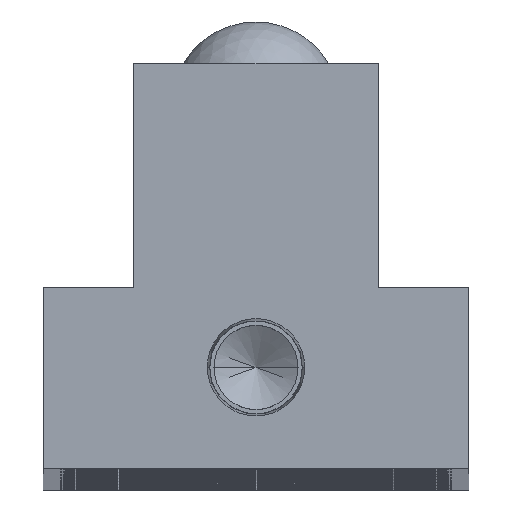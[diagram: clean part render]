
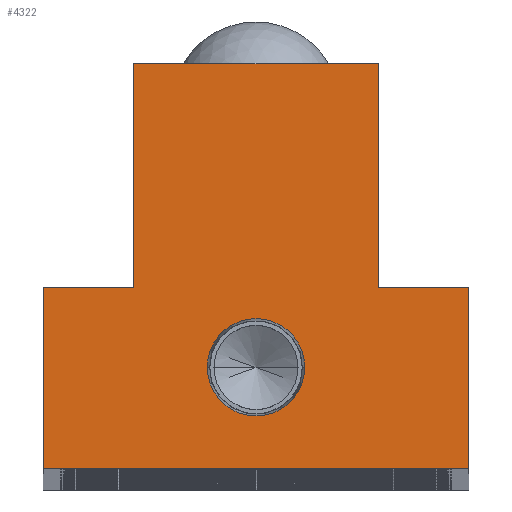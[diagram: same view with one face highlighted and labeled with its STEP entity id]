
A CAD part, top view. The second image highlights one B-rep face of the part: STEP entity #4322.
In plain terms, the highlighted planar face has unit normal (0, 0, 1).
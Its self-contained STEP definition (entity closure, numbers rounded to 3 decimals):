
#208 = CARTESIAN_POINT ( 'NONE',  ( 0., 9.5, 0. ) ) ;
#245 = LINE ( 'NONE', #13261, #23005 ) ;
#371 = FACE_BOUND ( 'NONE', #25600, .T. ) ;
#471 = DIRECTION ( 'NONE',  ( 0., 1., 0. ) ) ;
#559 = EDGE_CURVE ( 'NONE', #4421, #10044, #24688, .T. ) ;
#1039 = EDGE_CURVE ( 'NONE', #1881, #25905, #3249, .T. ) ;
#1077 = VERTEX_POINT ( 'NONE', #6687 ) ;
#1423 = DIRECTION ( 'NONE',  ( -1., 0., 0. ) ) ;
#1881 = VERTEX_POINT ( 'NONE', #10308 ) ;
#2095 = VERTEX_POINT ( 'NONE', #4884 ) ;
#2389 = DIRECTION ( 'NONE',  ( 1., 0., 0. ) ) ;
#2504 = CARTESIAN_POINT ( 'NONE',  ( -11.5, 17., 0. ) ) ;
#3188 = CARTESIAN_POINT ( 'NONE',  ( 20., 17., 0. ) ) ;
#3249 = CIRCLE ( 'NONE', #5801, 4.574 ) ;
#3352 = LINE ( 'NONE', #6123, #14123 ) ;
#3472 = ORIENTED_EDGE ( 'NONE', *, *, #13518, .T. ) ;
#3557 = DIRECTION ( 'NONE',  ( 1., 0., 0. ) ) ;
#3679 = DIRECTION ( 'NONE',  ( 0., 0., -1. ) ) ;
#4217 = ORIENTED_EDGE ( 'NONE', *, *, #9613, .T. ) ;
#4322 = ADVANCED_FACE ( 'NONE', ( #371, #5382 ), #10204, .F. ) ;
#4421 = VERTEX_POINT ( 'NONE', #6132 ) ;
#4884 = CARTESIAN_POINT ( 'NONE',  ( 11.5, 17., 0. ) ) ;
#4944 = CARTESIAN_POINT ( 'NONE',  ( 0., 9.5, 0. ) ) ;
#5367 = EDGE_CURVE ( 'NONE', #25905, #1881, #10423, .T. ) ;
#5382 = FACE_OUTER_BOUND ( 'NONE', #5521, .T. ) ;
#5521 = EDGE_LOOP ( 'NONE', ( #10199, #15780, #25386, #3472, #27069, #10072, #15141, #4217 ) ) ;
#5801 = AXIS2_PLACEMENT_3D ( 'NONE', #208, #15231, #2389 ) ;
#6105 = CARTESIAN_POINT ( 'NONE',  ( -20., 17., 0. ) ) ;
#6123 = CARTESIAN_POINT ( 'NONE',  ( -11.5, 17., 0. ) ) ;
#6132 = CARTESIAN_POINT ( 'NONE',  ( -20., 0., 0. ) ) ;
#6279 = AXIS2_PLACEMENT_3D ( 'NONE', #8014, #3679, #25117 ) ;
#6687 = CARTESIAN_POINT ( 'NONE',  ( -11.5, 17., 0. ) ) ;
#7103 = DIRECTION ( 'NONE',  ( 1., 0., 0. ) ) ;
#8014 = CARTESIAN_POINT ( 'NONE',  ( 0., 0., 0. ) ) ;
#8034 = VECTOR ( 'NONE', #15339, 1000. ) ;
#8375 = CARTESIAN_POINT ( 'NONE',  ( 20., 17., 0. ) ) ;
#8432 = CARTESIAN_POINT ( 'NONE',  ( 20., 0., 0. ) ) ;
#8548 = EDGE_CURVE ( 'NONE', #2095, #17751, #245, .T. ) ;
#9613 = EDGE_CURVE ( 'NONE', #10044, #19047, #20967, .T. ) ;
#9974 = CARTESIAN_POINT ( 'NONE',  ( 11.5, 38., 0. ) ) ;
#10044 = VERTEX_POINT ( 'NONE', #8432 ) ;
#10072 = ORIENTED_EDGE ( 'NONE', *, *, #11114, .T. ) ;
#10199 = ORIENTED_EDGE ( 'NONE', *, *, #14652, .T. ) ;
#10204 = PLANE ( 'NONE',  #6279 ) ;
#10308 = CARTESIAN_POINT ( 'NONE',  ( 4.574, 9.5, 0. ) ) ;
#10423 = CIRCLE ( 'NONE', #24606, 4.574 ) ;
#11114 = EDGE_CURVE ( 'NONE', #21850, #4421, #25906, .T. ) ;
#12844 = ORIENTED_EDGE ( 'NONE', *, *, #5367, .F. ) ;
#13261 = CARTESIAN_POINT ( 'NONE',  ( 11.5, 17., 0. ) ) ;
#13518 = EDGE_CURVE ( 'NONE', #24282, #1077, #3352, .T. ) ;
#13933 = LINE ( 'NONE', #8375, #23933 ) ;
#14123 = VECTOR ( 'NONE', #27527, 1000. ) ;
#14652 = EDGE_CURVE ( 'NONE', #19047, #2095, #13933, .T. ) ;
#14753 = DIRECTION ( 'NONE',  ( -1., 0., 0. ) ) ;
#14993 = ORIENTED_EDGE ( 'NONE', *, *, #1039, .F. ) ;
#15141 = ORIENTED_EDGE ( 'NONE', *, *, #559, .T. ) ;
#15231 = DIRECTION ( 'NONE',  ( 0., 0., 1. ) ) ;
#15250 = CARTESIAN_POINT ( 'NONE',  ( -11.5, 38., 0. ) ) ;
#15339 = DIRECTION ( 'NONE',  ( -1., 0., 0. ) ) ;
#15780 = ORIENTED_EDGE ( 'NONE', *, *, #8548, .T. ) ;
#17634 = CARTESIAN_POINT ( 'NONE',  ( 20., 17., 0. ) ) ;
#17711 = VECTOR ( 'NONE', #3557, 1000. ) ;
#17751 = VERTEX_POINT ( 'NONE', #22630 ) ;
#19047 = VERTEX_POINT ( 'NONE', #3188 ) ;
#19267 = DIRECTION ( 'NONE',  ( 0., -1., 0. ) ) ;
#19428 = CARTESIAN_POINT ( 'NONE',  ( -4.574, 9.5, 0. ) ) ;
#19942 = DIRECTION ( 'NONE',  ( 0., 0., 1. ) ) ;
#20218 = VECTOR ( 'NONE', #19267, 1000. ) ;
#20783 = VECTOR ( 'NONE', #1423, 1000. ) ;
#20967 = LINE ( 'NONE', #17634, #25982 ) ;
#21737 = DIRECTION ( 'NONE',  ( 0., 1., 0. ) ) ;
#21850 = VERTEX_POINT ( 'NONE', #6105 ) ;
#22630 = CARTESIAN_POINT ( 'NONE',  ( 11.5, 38., 0. ) ) ;
#23005 = VECTOR ( 'NONE', #21737, 1000. ) ;
#23424 = CARTESIAN_POINT ( 'NONE',  ( -20., 0., 0. ) ) ;
#23933 = VECTOR ( 'NONE', #14753, 1000. ) ;
#24282 = VERTEX_POINT ( 'NONE', #15250 ) ;
#24414 = LINE ( 'NONE', #2504, #8034 ) ;
#24557 = EDGE_CURVE ( 'NONE', #17751, #24282, #26456, .T. ) ;
#24606 = AXIS2_PLACEMENT_3D ( 'NONE', #4944, #19942, #7103 ) ;
#24688 = LINE ( 'NONE', #24917, #17711 ) ;
#24917 = CARTESIAN_POINT ( 'NONE',  ( 20., 0., 0. ) ) ;
#25117 = DIRECTION ( 'NONE',  ( -1., 0., 0. ) ) ;
#25386 = ORIENTED_EDGE ( 'NONE', *, *, #24557, .T. ) ;
#25600 = EDGE_LOOP ( 'NONE', ( #14993, #12844 ) ) ;
#25905 = VERTEX_POINT ( 'NONE', #19428 ) ;
#25906 = LINE ( 'NONE', #23424, #20218 ) ;
#25948 = EDGE_CURVE ( 'NONE', #1077, #21850, #24414, .T. ) ;
#25982 = VECTOR ( 'NONE', #471, 1000. ) ;
#26456 = LINE ( 'NONE', #9974, #20783 ) ;
#27069 = ORIENTED_EDGE ( 'NONE', *, *, #25948, .T. ) ;
#27527 = DIRECTION ( 'NONE',  ( 0., -1., 0. ) ) ;
